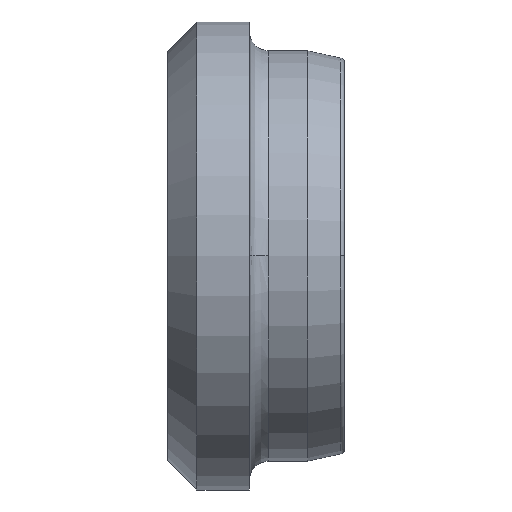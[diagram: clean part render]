
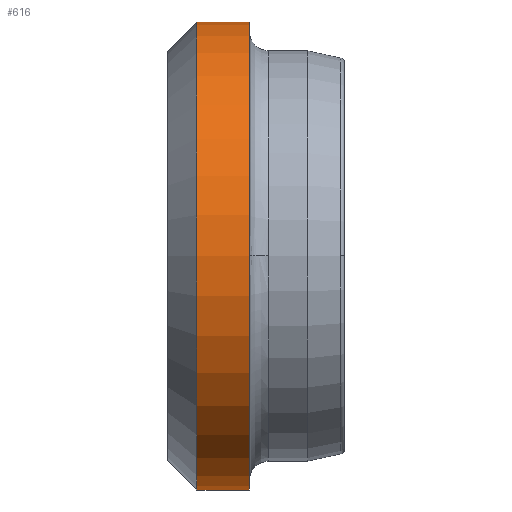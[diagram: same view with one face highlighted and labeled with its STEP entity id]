
A CAD part, top view. The second image highlights one B-rep face of the part: STEP entity #616.
In plain terms, the highlighted cylindrical face has radius 16 mm (diameter 32 mm), a partial arc.
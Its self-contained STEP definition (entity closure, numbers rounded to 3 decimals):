
#575=CARTESIAN_POINT('',(-4.537,-8.332,0.0));
#576=DIRECTION('',(1.0,0.0,0.0));
#577=DIRECTION('',(0.0,1.0,0.0));
#578=AXIS2_PLACEMENT_3D('',#575,#576,#577);
#579=CYLINDRICAL_SURFACE('',#578,16.);
#580=CARTESIAN_POINT('',(-5.325,7.668,0.0));
#581=VERTEX_POINT('',#580);
#582=CARTESIAN_POINT('',(-1.75,7.668,0.0));
#583=VERTEX_POINT('',#582);
#584=CARTESIAN_POINT('',(-5.325,7.668,0.0));
#585=DIRECTION('',(1.0,0.0,0.0));
#586=VECTOR('',#585,3.575);
#587=LINE('',#584,#586);
#588=EDGE_CURVE('',#581,#583,#587,.T.);
#589=ORIENTED_EDGE('',*,*,#588,.F.);
#590=CARTESIAN_POINT('',(-5.325,-24.332,0.));
#591=VERTEX_POINT('',#590);
#592=CARTESIAN_POINT('',(-5.325,-8.332,0.0));
#593=DIRECTION('',(-1.0,0.0,0.0));
#594=DIRECTION('',(0.0,-1.0,0.0));
#595=AXIS2_PLACEMENT_3D('',#592,#593,#594);
#596=CIRCLE('',#595,16.);
#597=EDGE_CURVE('',#591,#581,#596,.T.);
#598=ORIENTED_EDGE('',*,*,#597,.F.);
#599=CARTESIAN_POINT('',(-1.75,-24.332,0.));
#600=VERTEX_POINT('',#599);
#601=CARTESIAN_POINT('',(-1.75,-24.332,0.));
#602=DIRECTION('',(-1.0,0.0,0.0));
#603=VECTOR('',#602,3.575);
#604=LINE('',#601,#603);
#605=EDGE_CURVE('',#600,#591,#604,.T.);
#606=ORIENTED_EDGE('',*,*,#605,.F.);
#607=CARTESIAN_POINT('',(-1.75,-8.332,0.0));
#608=DIRECTION('',(1.0,0.0,0.0));
#609=DIRECTION('',(0.0,1.0,0.0));
#610=AXIS2_PLACEMENT_3D('',#607,#608,#609);
#611=CIRCLE('',#610,16.0);
#612=EDGE_CURVE('',#583,#600,#611,.T.);
#613=ORIENTED_EDGE('',*,*,#612,.F.);
#614=EDGE_LOOP('',(#589,#598,#606,#613));
#615=FACE_OUTER_BOUND('',#614,.T.);
#616=ADVANCED_FACE('',(#615),#579,.T.);
